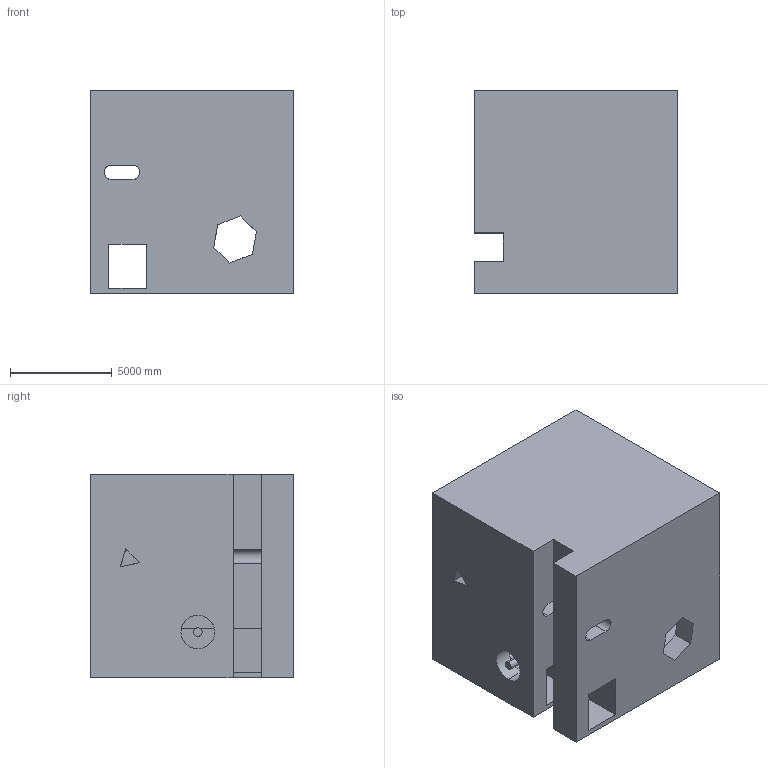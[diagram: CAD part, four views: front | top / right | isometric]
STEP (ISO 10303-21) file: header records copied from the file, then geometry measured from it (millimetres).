
FILE_DESCRIPTION (( 'STEP AP203' ), '1' );
FILE_NAME ('82.STEP', '2022-09-01T12:01:42', ( 'user' ), ( '' ), 'SwSTEP 2.0', 'SolidWorks 2021', '' );
FILE_SCHEMA (( 'CONFIG_CONTROL_DESIGN' ));
Length unit declared in the file: centimetre
Products named in the file (1): 82
Bounding box: 10000 x 10000 x 10000 mm (x, y, z)
Volume: 874686807958.5 mm3; surface area: 858496784.7 mm2
Topology: 1 solids, 1 shells, 63 faces, 195 edges, 130 vertices
Faces by surface type: plane 50, cylinder 13
Entity records: 2264 total; most frequent: CARTESIAN_POINT 407, ORIENTED_EDGE 390, DIRECTION 343, EDGE_CURVE 195, LINE 163, VECTOR 163, VERTEX_POINT 130, AXIS2_PLACEMENT_3D 90
